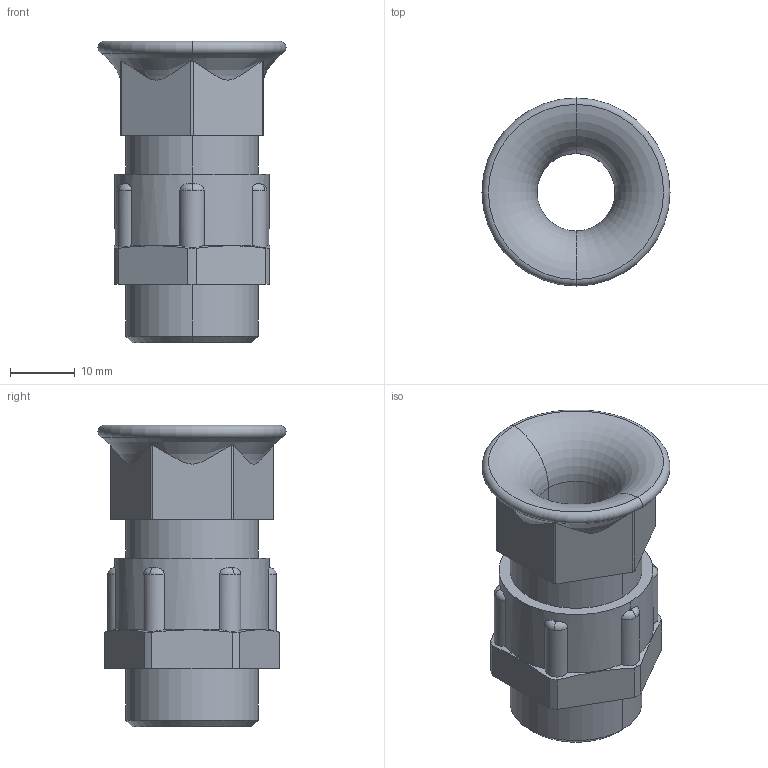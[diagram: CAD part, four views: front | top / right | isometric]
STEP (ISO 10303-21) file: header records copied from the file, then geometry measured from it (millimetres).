
FILE_DESCRIPTION (( 'STEP AP203' ), '1' );
FILE_NAME ('28.713 PA.STEP', '2007-01-03T09:59:07', ( ' ' ), ( '' ), 'SwSTEP 2.0', 'SolidWorks 2005278', '' );
FILE_SCHEMA (( 'CONFIG_CONTROL_DESIGN' ));
Length unit declared in the file: millimetre
Products named in the file (1): 28.713 PA
Bounding box: 29 x 29 x 46.5 mm (x, y, z)
Volume: 13707.7 mm3; surface area: 6322.7 mm2
Topology: 1 solids, 1 shells, 109 faces, 296 edges, 194 vertices
Faces by surface type: plane 59, cylinder 28, torus 18, cone 4
Entity records: 3895 total; most frequent: CARTESIAN_POINT 1028, ORIENTED_EDGE 592, DIRECTION 584, EDGE_CURVE 296, AXIS2_PLACEMENT_3D 210, VERTEX_POINT 194, LINE 164, VECTOR 164
